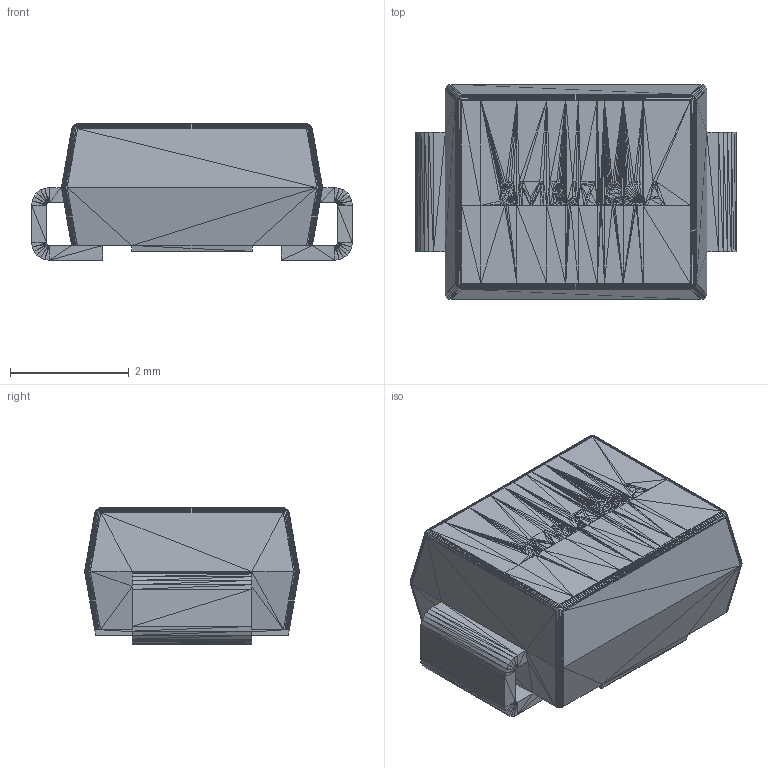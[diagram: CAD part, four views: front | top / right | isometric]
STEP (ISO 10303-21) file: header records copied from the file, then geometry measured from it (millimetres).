
FILE_DESCRIPTION(('auto-generated'),'2;1');
FILE_SCHEMA(('CONFIG_CONTROL_DESIGN'));
Bounding box: 5.4 x 3.62 x 2.3 mm (x, y, z)
Surface area: 74.9 mm2 (no closed solid volume)
Topology: 0 solids, 23 shells, 2802 faces, 4676 edges, 1870 vertices
Faces by surface type: plane 2802
Entity records: 45493 total; most frequent: ORIENTED_EDGE 8406, DIRECTION 6532, LINE 4676, EDGE_CURVE 4676, VECTOR 3387, AXIS2_PLACEMENT_3D 2803, PLANE 2802, EDGE_LOOP 2802
